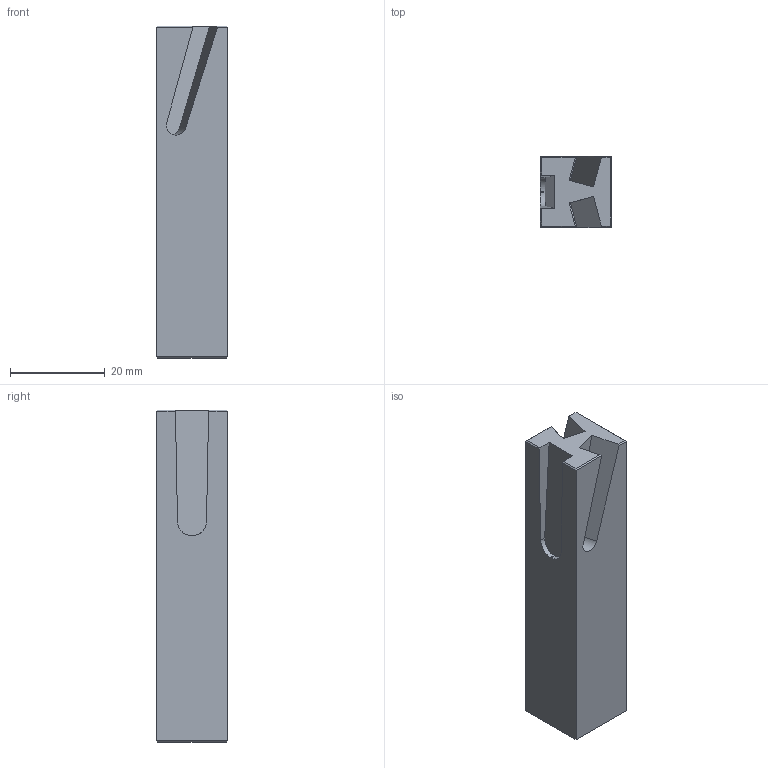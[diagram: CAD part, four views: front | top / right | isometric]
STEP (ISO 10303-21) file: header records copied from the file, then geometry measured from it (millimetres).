
FILE_DESCRIPTION (( 'STEP AP203' ), '1' );
FILE_NAME ('SQ-P15.70.2-4.STEP', '2021-07-29T12:36:05', ( '' ), ( '' ), 'SwSTEP 2.0', 'SolidWorks 2014', '' );
FILE_SCHEMA (( 'CONFIG_CONTROL_DESIGN' ));
Length unit declared in the file: millimetre
Products named in the file (1): SQ-P15.70.2-4
Bounding box: 15 x 15 x 70 mm (x, y, z)
Volume: 12923.3 mm3; surface area: 5987.5 mm2
Topology: 1 solids, 1 shells, 38 faces, 98 edges, 61 vertices
Faces by surface type: plane 29, cylinder 7, cone 2
Entity records: 1198 total; most frequent: CARTESIAN_POINT 223, ORIENTED_EDGE 192, DIRECTION 174, EDGE_CURVE 96, VECTOR 78, LINE 78, VERTEX_POINT 61, AXIS2_PLACEMENT_3D 48
